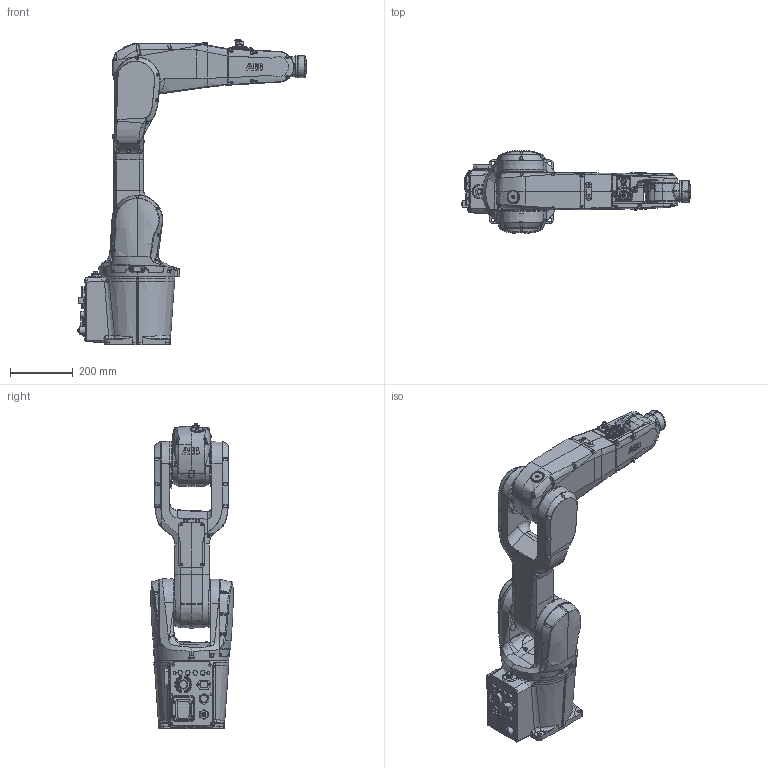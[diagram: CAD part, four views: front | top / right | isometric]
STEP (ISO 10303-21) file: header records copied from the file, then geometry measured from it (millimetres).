
FILE_DESCRIPTION (( 'STEP AP214' ), '1' );
FILE_NAME ('IRB1200H_5-90_IRC5__Standard_rev0.step', '2022-01-17T08:43:43', ( '' ), ( '' ), 'SwSTEP 2.0', 'SolidWorks 2020', '' );
FILE_SCHEMA (( 'AUTOMOTIVE_DESIGN' ));
Length unit declared in the file: millimetre
Products named in the file (1): IRB1200H_5-90_IRC5__Standard_rev0
Bounding box: 734.65 x 262.97 x 977.6 mm (x, y, z)
Volume: 33463626.1 mm3; surface area: 1367889.7 mm2
Topology: 7 solids, 28 shells, 4383 faces, 10778 edges, 6573 vertices
Faces by surface type: bspline 1610, plane 1205, cylinder 976, cone 383, torus 172, sphere 37
Entity records: 338705 total; most frequent: CARTESIAN_POINT 201220, ORIENTED_EDGE 21350, DIRECTION 14787, EDGE_CURVE 10675, VERTEX_POINT 6571, AXIS2_PLACEMENT_3D 5894, EDGE_LOOP 4636, UNCERTAINTY_MEASURE_WITH_UNIT 4392
